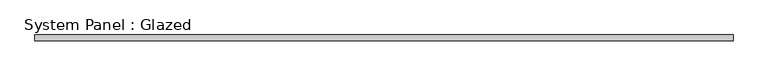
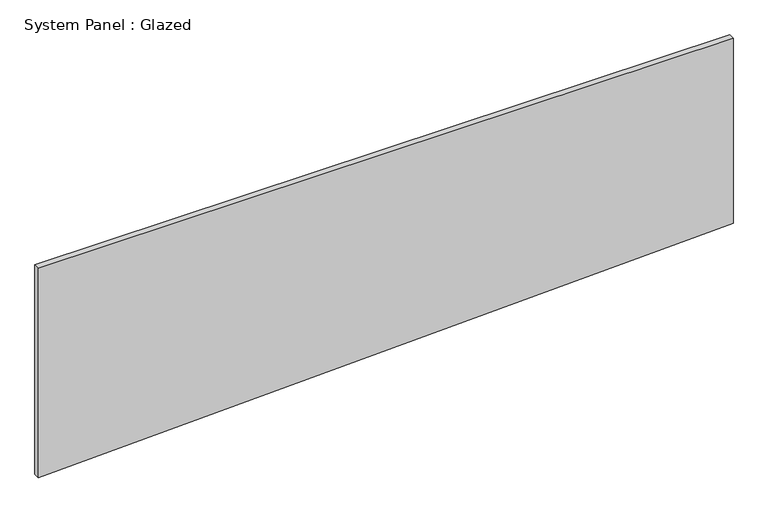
"""IFC4 building model written with IfcOpenShell, lengths in millimetres: plate geometry, System Panel : Glazed."""

from ifc_helpers import new_model, si_unit, frame, origin, place, context, project, spatial, polyline, outline, extrude, source, transform, mapped, element, save


def system_panel_glazed_4385c969(model_context):
    return source(origin(), model_context, "Body", "SweptSolid", [
        extrude(outline(polyline([(0.0, -1504.95), (111.4638036, 1504.95), (958.9534602, 1504.95), (958.9534602, -1504.95), (0.0, -1504.95)])), frame((0.0, 19.05, 0.0), z_axis=(0.0, 1.0, 0.0), x_axis=(0.0, 0.0, 1.0)), (0.0, 0.0, 1.0), 25.4),
    ])


if __name__ == "__main__":
    model = new_model("IFC4")
    model_context = context("Model", 3, world=origin())
    ifc_project = project(units=[si_unit("LENGTHUNIT", "METRE", prefix="MILLI")], contexts=[model_context])
    site = spatial("IfcSite", under=ifc_project)
    building = spatial("IfcBuilding", under=site)
    placement = place(None, origin())
    system_panel_glazed_shape = system_panel_glazed_4385c969(model_context)
    element("IfcPlate", 1, ObjectType="System Panel : Glazed", at=placement, inside=building, context=model_context, shape_type="MappedRepresentation", body=[
        mapped(system_panel_glazed_shape, transform((0.0, 0.0, 0.0), x_axis=(1.0, 0.0, 0.0), y_axis=(0.0, 1.0, 0.0), z_axis=(0.0, 0.0, 1.0))),
    ])
    save(model, "model.ifc")
